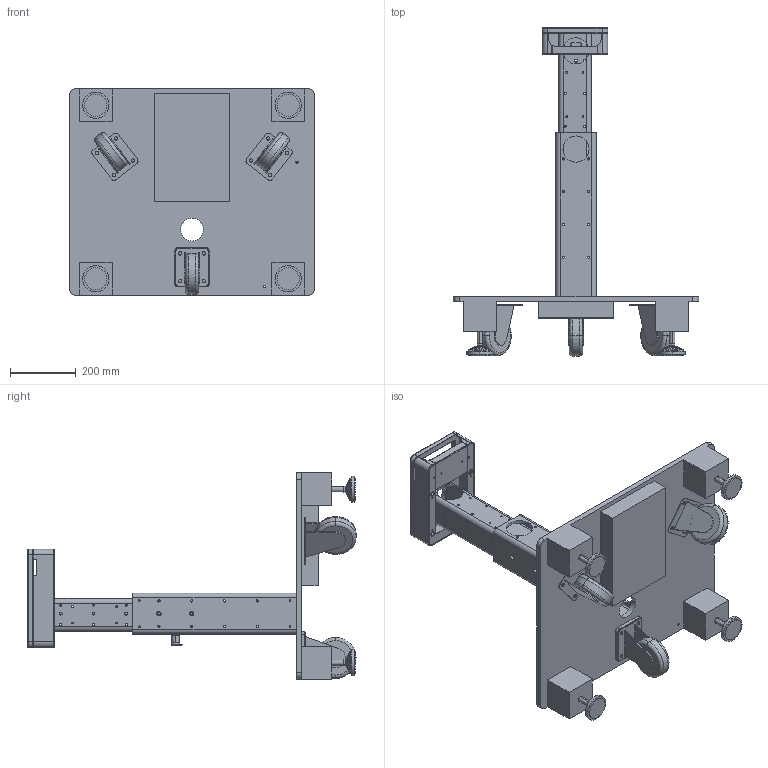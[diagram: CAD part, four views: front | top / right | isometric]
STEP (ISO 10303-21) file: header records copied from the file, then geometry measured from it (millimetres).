
FILE_DESCRIPTION((''),'2;1');
FILE_NAME('00_ROBOT_STAND_H_ADJU_SW0001','2018-06-29T',('yi-syuan.wu'),(''),'CREO PARAMETRIC BY PTC INC, 2015290','CREO PARAMETRIC BY PTC INC, 2015290','');
FILE_SCHEMA(('CONFIG_CONTROL_DESIGN'));
Length unit declared in the file: inch
Products named in the file (1): 00_ROBOT_STAND_H_ADJU_SW0001
Bounding box: 750 x 1002 x 630 mm (x, y, z)
Volume: 18178106.6 mm3; surface area: 2698089 mm2
Topology: 8 solids, 8 shells, 1039 faces, 2793 edges, 1790 vertices
Faces by surface type: cylinder 483, plane 287, cone 107, extrusion 91, torus 69, sphere 2
Entity records: 34846 total; most frequent: CARTESIAN_POINT 7709, DIRECTION 5708, ORIENTED_EDGE 5584, EDGE_CURVE 2792, AXIS2_PLACEMENT_3D 2196, VERTEX_POINT 1790, EDGE_LOOP 1364, VECTOR 1316
